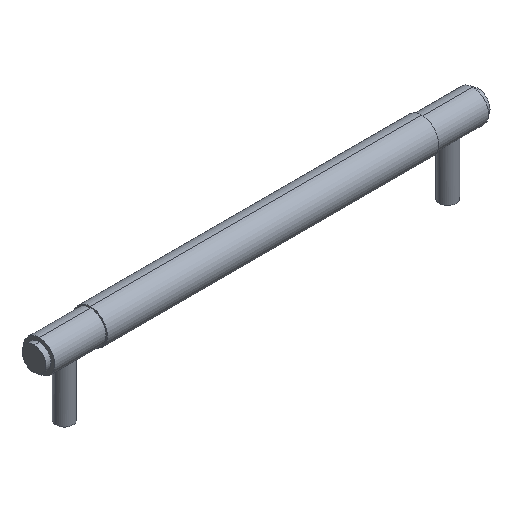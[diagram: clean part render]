
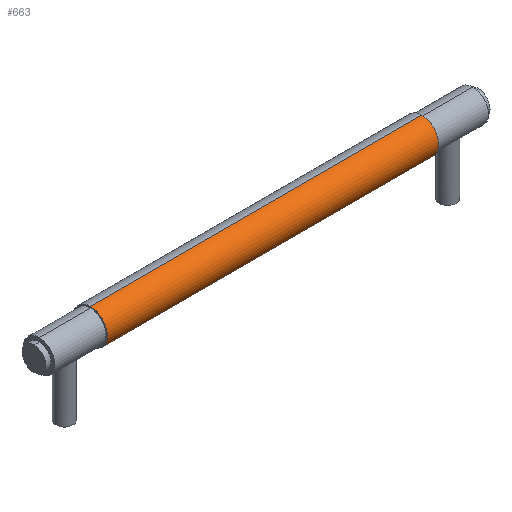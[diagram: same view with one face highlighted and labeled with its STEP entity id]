
A CAD part, isometric view. The second image highlights one B-rep face of the part: STEP entity #663.
In plain terms, the highlighted cylindrical face has radius 10 mm (diameter 20 mm), a partial arc.
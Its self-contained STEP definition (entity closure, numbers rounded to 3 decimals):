
#76 = DIRECTION ( 'NONE',  ( -1., 0., 0. ) ) ;
#87 = DIRECTION ( 'NONE',  ( 0., 0., -1. ) ) ;
#89 = ORIENTED_EDGE ( 'NONE', *, *, #290, .T. ) ;
#93 = DIRECTION ( 'NONE',  ( 1., 0., 0. ) ) ;
#131 = CARTESIAN_POINT ( 'NONE',  ( 97., 0., 0. ) ) ;
#134 = CARTESIAN_POINT ( 'NONE',  ( 97., 0., 10. ) ) ;
#238 = ORIENTED_EDGE ( 'NONE', *, *, #254, .F. ) ;
#254 = EDGE_CURVE ( 'NONE', #666, #722, #482, .T. ) ;
#256 = CARTESIAN_POINT ( 'NONE',  ( -97., 0., -10. ) ) ;
#258 = CARTESIAN_POINT ( 'NONE',  ( -97., 0., 10. ) ) ;
#262 = CARTESIAN_POINT ( 'NONE',  ( 97., 0., -10. ) ) ;
#263 = CARTESIAN_POINT ( 'NONE',  ( 97., 0., 0. ) ) ;
#290 = EDGE_CURVE ( 'NONE', #562, #668, #797, .T. ) ;
#327 = EDGE_CURVE ( 'NONE', #722, #668, #767, .T. ) ;
#368 = CARTESIAN_POINT ( 'NONE',  ( 97., 0., -10. ) ) ;
#377 = CYLINDRICAL_SURFACE ( 'NONE', #508, 10. ) ;
#386 = FACE_OUTER_BOUND ( 'NONE', #459, .T. ) ;
#396 = EDGE_CURVE ( 'NONE', #666, #562, #725, .T. ) ;
#459 = EDGE_LOOP ( 'NONE', ( #489, #238, #601, #89 ) ) ;
#478 = DIRECTION ( 'NONE',  ( 0., 0., 1. ) ) ;
#482 = CIRCLE ( 'NONE', #800, 10. ) ;
#489 = ORIENTED_EDGE ( 'NONE', *, *, #327, .F. ) ;
#508 = AXIS2_PLACEMENT_3D ( 'NONE', #263, #76, #478 ) ;
#562 = VERTEX_POINT ( 'NONE', #258 ) ;
#591 = CARTESIAN_POINT ( 'NONE',  ( 97., 0., 10. ) ) ;
#601 = ORIENTED_EDGE ( 'NONE', *, *, #396, .T. ) ;
#663 = ADVANCED_FACE ( 'NONE', ( #386 ), #377, .T. ) ;
#666 = VERTEX_POINT ( 'NONE', #591 ) ;
#667 = DIRECTION ( 'NONE',  ( 0., 0., -1. ) ) ;
#668 = VERTEX_POINT ( 'NONE', #256 ) ;
#669 = DIRECTION ( 'NONE',  ( 1., 0., 0. ) ) ;
#674 = VECTOR ( 'NONE', #679, 1000. ) ;
#679 = DIRECTION ( 'NONE',  ( -1., 0., 0. ) ) ;
#722 = VERTEX_POINT ( 'NONE', #262 ) ;
#725 = LINE ( 'NONE', #134, #674 ) ;
#727 = CARTESIAN_POINT ( 'NONE',  ( -97., 0., 0. ) ) ;
#737 = VECTOR ( 'NONE', #789, 1000. ) ;
#767 = LINE ( 'NONE', #368, #737 ) ;
#775 = AXIS2_PLACEMENT_3D ( 'NONE', #727, #669, #667 ) ;
#789 = DIRECTION ( 'NONE',  ( -1., 0., 0. ) ) ;
#797 = CIRCLE ( 'NONE', #775, 10. ) ;
#800 = AXIS2_PLACEMENT_3D ( 'NONE', #131, #93, #87 ) ;
